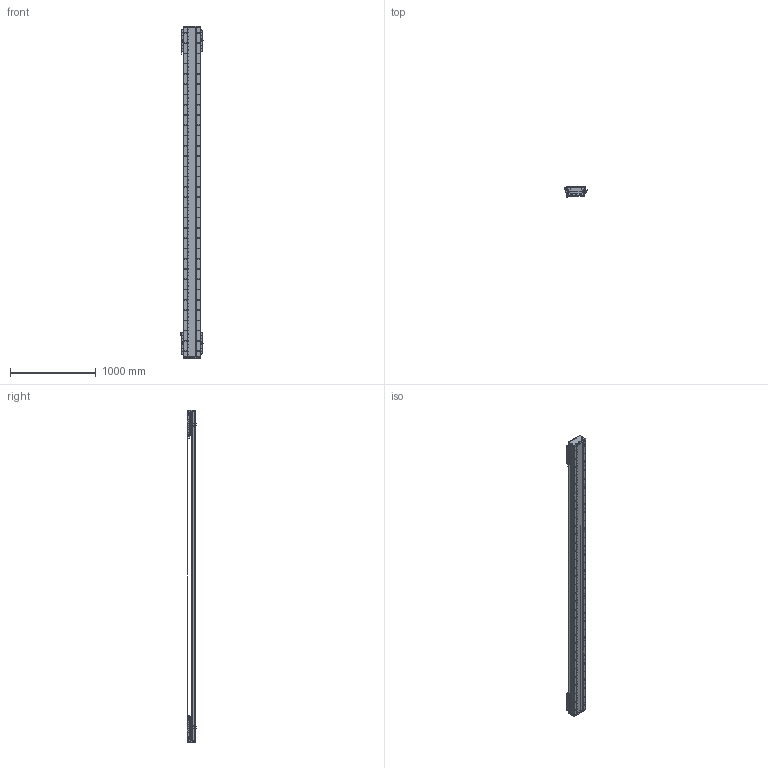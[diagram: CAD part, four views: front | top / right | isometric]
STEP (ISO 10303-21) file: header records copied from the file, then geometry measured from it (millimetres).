
FILE_DESCRIPTION (( 'STEP AP203' ), '1' );
FILE_NAME ('DA-C195-2-C3-T3260-C010-0.2 眻盄萇儂.STEP', '2025-08-15T00:54:56', ( '' ), ( '' ), 'SwSTEP 2.0', 'SolidWorks 2019', '' );
FILE_SCHEMA (( 'CONFIG_CONTROL_DESIGN' ));
Length unit declared in the file: millimetre
Products named in the file (19): PM-Y65嫖萇羲壽郪璃; IU-CU195-L-00 菁釱(L3840); DA195詩湍嶺輸; 葩璃 DA95-GT-T-00; MS200 棠掑喜S315-T240; IU-CU195-L 菁釱絳寢; DA95-HXJ-00 遣喳砎蝶; DKW-GYP-ZJ-00 笢潔嫖萇覜茼え; PM-T45ㄗ侂狟ㄘ; DA195詩湍裔啣; DKW-KGZ-ZJ-00 中间光电开关支架; CU195-C3賑輸-俋楷; DA195詩湍郪璃; LMT黍杅芛; DA-C195-2-C3-T3260-C010-0.2 眻盄萇儂; DA165-GYP-00 光电感应片(默认); DA-C195-GD-DB-H-00 傷啣; DKW168-HXJ-ZJ-00 笢潔滅袉砎蝶; DA195詩湍菜輸
Assembly tree (37 placements, depth 3):
  DA-C195-2-C3-T3260-C010-0.2 眻盄萇儂
    DA195詩湍郪璃
      DA195詩湍菜輸  x2
      DA195詩湍裔啣
      DA195詩湍嶺輸  x2
      DA95-HXJ-00 遣喳砎蝶  x8
      DA-C195-GD-DB-H-00 傷啣  x2
    IU-CU195-L 菁釱絳寢
      IU-CU195-L-00 菁釱(L3840)
      葩璃 DA95-GT-T-00  x4
    LMT黍杅芛  x2
    MS200 棠掑喜S315-T240
    PM-T45ㄗ侂狟ㄘ  x4
    DA165-GYP-00 光电感应片(默认)  x2
    PM-Y65嫖萇羲壽郪璃
    DKW168-HXJ-ZJ-00 笢潔滅袉砎蝶
    DKW-GYP-ZJ-00 笢潔嫖萇覜茼え
    DKW-KGZ-ZJ-00 中间光电开关支架
    CU195-C3賑輸-俋楷  x2
Bounding box: 258.2 x 115.45 x 3880 mm (x, y, z)
Volume: 23366297.4 mm3; surface area: 6834841.7 mm2
Topology: 154 solids, 218 shells, 7409 faces, 20415 edges, 12805 vertices
Faces by surface type: cylinder 3786, plane 2571, cone 884, torus 88, sphere 72, bspline 8
Entity records: 176555 total; most frequent: CARTESIAN_POINT 50573, ORIENTED_EDGE 26846, DIRECTION 24800, EDGE_CURVE 13423, AXIS2_PLACEMENT_3D 9181, VERTEX_POINT 8730, VECTOR 6438, LINE 6438
